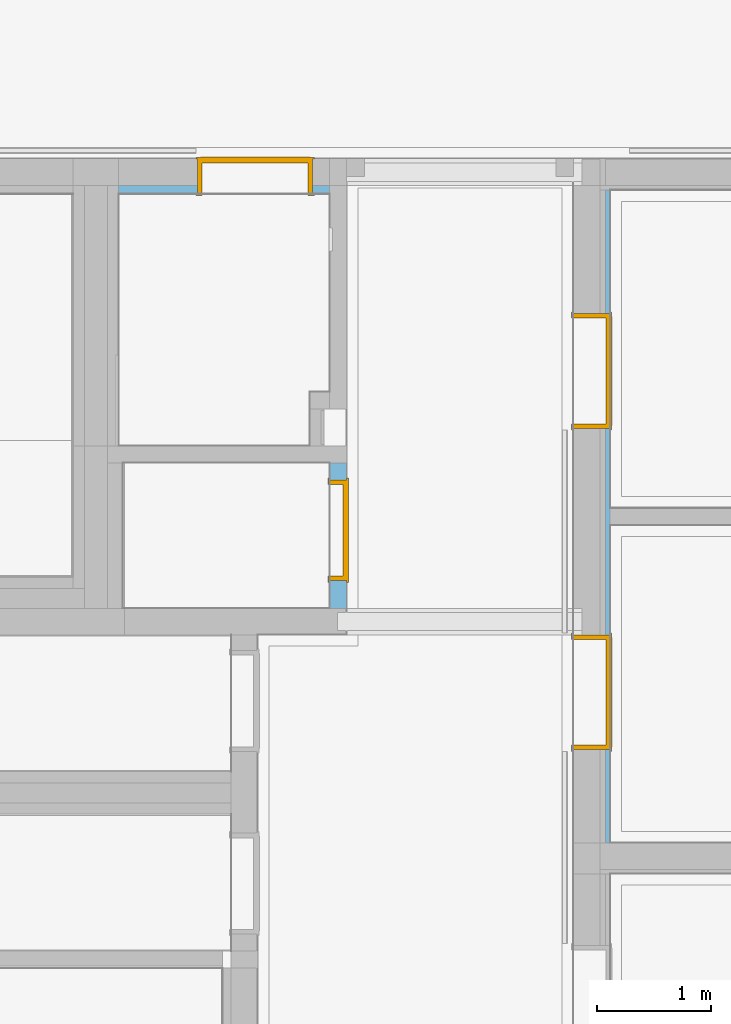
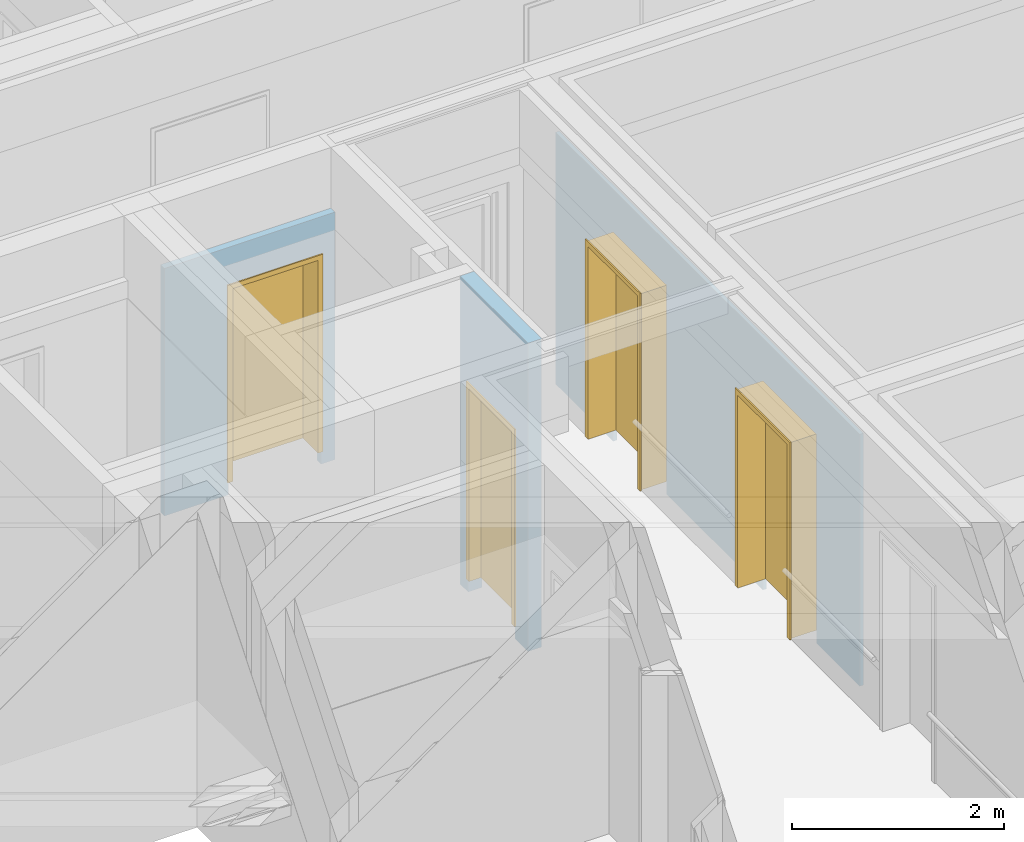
# One storey, part 72 of 222: 4 doors, 4 openings, plus 3 elements that do not belong to this part.
"""IFC4 building model written with IfcOpenShell, lengths in metres."""

from ifc_helpers import new_model, entity, si_unit, converted_unit, derived_unit, frame, frame_2d, origin, origin_with_axes, place, context, subcontext, project, spatial, polyline, rectangle, outline, extrude, faceted_brep, source, transform, mapped, material, type_object, element, fill, save


model = new_model("IFC4")

# Units and contexts
model_context = context("Model", 3, precision=1e-05, world=origin())
body_context = subcontext(model_context, "Body", "Model", "MODEL_VIEW")
ifc_project = project(units=[si_unit("LENGTHUNIT", "METRE"), si_unit("AREAUNIT", "SQUARE_METRE"), si_unit("VOLUMEUNIT", "CUBIC_METRE"), si_unit("MASSUNIT", "GRAM", prefix="KILO"), converted_unit("PLANEANGLEUNIT", "DEGREE", entity("IfcPlaneAngleMeasure", 0.0174532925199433), si_unit("PLANEANGLEUNIT", "RADIAN"), dimensions=[0, 0, 0, 0, 0, 0, 0]), derived_unit("THERMALTRANSMITTANCEUNIT", [(si_unit("POWERUNIT", "WATT"), 1), (si_unit("THERMODYNAMICTEMPERATUREUNIT", "KELVIN"), -1), (si_unit("LENGTHUNIT", "METRE"), -2)]), derived_unit("VOLUMETRICFLOWRATEUNIT", [(si_unit("LENGTHUNIT", "METRE"), 3), (converted_unit("TIMEUNIT", "hour", entity("IfcTimeMeasure", 3600.0), si_unit("TIMEUNIT", "SECOND"), dimensions=[0, 0, 1, 0, 0, 0, 0]), -1), (si_unit("LENGTHUNIT", "METRE"), -1)])], contexts=[model_context])

# Site, building, storey
site_placement = place(None, origin())
site = spatial("IfcSite", under=ifc_project, at=site_placement, Name="Psychiatrie Neubau Wunstorf", CompositionType="ELEMENT")
building_placement = place(site_placement, origin())
building = spatial("IfcBuilding", under=site, at=building_placement, Name="Neubau H2 Stationsgebäude", CompositionType="ELEMENT")
storey_placement = place(building_placement, frame((0.0, 0.0, 3.6)))
storey = spatial("IfcBuildingStorey", under=building, at=storey_placement, Name="H2 Ebene +1", CompositionType="ELEMENT", Elevation=3.6)

# Wall, opening, door
ifc_material_1 = material(Name="WI-LB")
wall_1_placement = place(storey_placement, frame((7.775, 19.1650101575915, 0.0), z_axis=(0.0, 0.0, 1.0), x_axis=(0.0, -1.0, 0.0)))
wall_1 = element("IfcWall", 1, at=wall_1_placement, inside=storey, material=ifc_material_1, context=body_context, shape_type="SweptSolid", body=[
    extrude(rectangle(XDim=1.27899694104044, YDim=0.15, at=frame_2d((0.639498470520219, 0.075), x_axis=(1.0, 0.0))), origin_with_axes(), (0.0, 0.0, 1.0), 3.55),
])
opening_1_placement = place(wall_1_placement, frame((1.03500010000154, 0.15, 0.0), z_axis=(0.0, -1.0, 0.0), x_axis=(0.0, 0.0, 1.0)))
opening_1 = element("IfcOpeningElement", 2, at=opening_1_placement, cuts=wall_1, Name="Türöffnung", ObjectType="Opening", context=body_context, shape_type="SweptSolid", body=[
    extrude(outline(polyline([(2.41, 0.885000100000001), (2.41, 0.0), (0.0, 0.0), (0.0, 0.885000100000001), (2.41, 0.885000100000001)])), origin_with_axes(), (0.0, 0.0, 1.0), 0.15),
])
ifc_material_2 = material(Name="TI-1F-UZ-ZK")
door_type_1 = type_object("IfcDoorType", Name="SMT", OperationType="SINGLE_SWING_RIGHT", ParameterTakesPrecedence=False, PredefinedType="DOOR")
shared_shape_1 = source(origin_with_axes(), body_context, "Body", "Brep", [
    faceted_brep([(0.950000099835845, 0.0250000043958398, 0.0), (0.950000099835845, 0.124999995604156, 0.0), (0.910000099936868, 0.124999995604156, 0.0), (0.910000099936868, 0.0250000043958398, 0.0), (0.950000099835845, 0.124999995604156, 3.55), (0.950000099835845, 0.0250000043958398, 3.55), (0.910000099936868, 0.0250000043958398, 3.55), (0.910000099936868, 0.124999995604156, 3.55)], [[[0, 1, 2, 3]], [[4, 5, 6, 7]], [[1, 0, 5, 4]], [[2, 1, 4, 7]], [[3, 2, 7, 6]], [[0, 3, 6, 5]]], orient=[[False], [False], [False], [False], [False], [False]]),
    faceted_brep([(-0.024999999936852, 0.0250000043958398, 0.0), (-0.024999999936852, 0.124999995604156, 0.0), (-0.0649999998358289, 0.124999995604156, 0.0), (-0.0649999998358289, 0.0250000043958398, 0.0), (-0.024999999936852, 0.124999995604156, 3.55), (-0.024999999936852, 0.0250000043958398, 3.55), (-0.0649999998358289, 0.0250000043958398, 3.55), (-0.0649999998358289, 0.124999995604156, 3.55)], [[[0, 1, 2, 3]], [[4, 5, 6, 7]], [[1, 0, 5, 4]], [[2, 1, 4, 7]], [[3, 2, 7, 6]], [[0, 3, 6, 5]]], orient=[[False], [False], [False], [False], [False], [False]]),
    faceted_brep([(0.910000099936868, 0.0250000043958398, 2.435), (0.910000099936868, 0.124999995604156, 2.435), (-0.024999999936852, 0.124999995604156, 2.435), (-0.024999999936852, 0.0250000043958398, 2.435), (0.910000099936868, 0.124999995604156, 2.475), (0.910000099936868, 0.0250000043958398, 2.475), (-0.024999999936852, 0.0250000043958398, 2.475), (-0.024999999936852, 0.124999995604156, 2.475)], [[[0, 1, 2, 3]], [[4, 5, 6, 7]], [[1, 0, 5, 4]], [[2, 1, 4, 7]], [[3, 2, 7, 6]], [[0, 3, 6, 5]]], orient=[[False], [False], [False], [False], [False], [False]]),
])
shared_shape_2 = source(origin_with_axes(), body_context, "Body", "Brep", [
    faceted_brep([(0.0, -0.0150000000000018, 2.41), (0.0400000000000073, -0.0150000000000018, 2.41), (0.0400000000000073, -0.0150000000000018, 0.15), (0.0, -0.0150000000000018, 0.15), (0.0, 0.164999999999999, 0.15), (0.0400000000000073, 0.164999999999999, 0.15), (0.0400000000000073, 0.164999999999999, 2.41), (0.0, 0.164999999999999, 2.41)], [[[0, 1, 2, 3]], [[4, 5, 6, 7]], [[3, 4, 7, 0]], [[2, 5, 4, 3]], [[1, 6, 5, 2]], [[0, 7, 6, 1]]], orient=[[False], [False], [False], [False], [False], [False]]),
    faceted_brep([(0.0, -0.0150000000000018, 2.425), (0.0, -0.0150000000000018, 0.15), (-0.0149999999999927, -0.0150000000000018, 0.15), (-0.0149999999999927, -0.0150000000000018, 2.425), (0.0, 0.0, 0.15), (0.0, 0.0, 2.425), (-0.0149999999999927, 0.0, 2.425), (-0.0149999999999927, 0.0, 0.15)], [[[0, 1, 2, 3]], [[4, 5, 6, 7]], [[1, 0, 5, 4]], [[2, 1, 4, 7]], [[3, 2, 7, 6]], [[0, 3, 6, 5]]], orient=[[False], [False], [False], [False], [False], [False]]),
    faceted_brep([(0.0, 0.149999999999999, 2.425), (0.0, 0.149999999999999, 0.15), (-0.0149999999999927, 0.149999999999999, 0.15), (-0.0149999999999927, 0.149999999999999, 2.425), (0.0, 0.164999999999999, 0.15), (0.0, 0.164999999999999, 2.425), (-0.0149999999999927, 0.164999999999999, 2.425), (-0.0149999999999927, 0.164999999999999, 0.15)], [[[0, 1, 2, 3]], [[4, 5, 6, 7]], [[1, 0, 5, 4]], [[2, 1, 4, 7]], [[3, 2, 7, 6]], [[0, 3, 6, 5]]], orient=[[False], [False], [False], [False], [False], [False]]),
    faceted_brep([(0.845000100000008, -0.0150000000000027, 2.41), (0.885000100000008, -0.0150000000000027, 2.41), (0.885000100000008, -0.0150000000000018, 0.15), (0.845000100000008, -0.0150000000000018, 0.15), (0.845000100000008, 0.164999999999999, 0.15), (0.885000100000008, 0.164999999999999, 0.15), (0.885000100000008, 0.164999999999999, 2.41), (0.845000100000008, 0.164999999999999, 2.41)], [[[0, 1, 2, 3]], [[4, 5, 6, 7]], [[3, 4, 7, 0]], [[2, 5, 4, 3]], [[1, 6, 5, 2]], [[0, 7, 6, 1]]], orient=[[False], [False], [False], [False], [False], [False]]),
    faceted_brep([(0.885000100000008, -0.0150000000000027, 2.425), (0.900000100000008, -0.0150000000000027, 2.425), (0.900000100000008, -0.0150000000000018, 0.15), (0.885000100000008, -0.0150000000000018, 0.15), (0.885000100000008, 0.0, 0.15), (0.900000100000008, 0.0, 0.15), (0.900000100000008, 0.0, 2.425), (0.885000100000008, 0.0, 2.425)], [[[0, 1, 2, 3]], [[4, 5, 6, 7]], [[3, 4, 7, 0]], [[2, 5, 4, 3]], [[1, 6, 5, 2]], [[0, 7, 6, 1]]], orient=[[False], [False], [False], [False], [False], [False]]),
    faceted_brep([(0.885000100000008, 0.149999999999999, 2.425), (0.900000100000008, 0.149999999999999, 2.425), (0.900000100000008, 0.149999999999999, 0.15), (0.885000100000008, 0.149999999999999, 0.15), (0.885000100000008, 0.164999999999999, 0.15), (0.900000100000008, 0.164999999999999, 0.15), (0.900000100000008, 0.164999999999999, 2.425), (0.885000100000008, 0.164999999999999, 2.425)], [[[0, 1, 2, 3]], [[4, 5, 6, 7]], [[3, 4, 7, 0]], [[2, 5, 4, 3]], [[1, 6, 5, 2]], [[0, 7, 6, 1]]], orient=[[False], [False], [False], [False], [False], [False]]),
    faceted_brep([(0.0400000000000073, -0.0150000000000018, 2.41), (0.845000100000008, -0.0150000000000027, 2.41), (0.845000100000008, -0.0150000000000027, 2.37), (0.0400000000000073, -0.0150000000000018, 2.37), (0.0400000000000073, 0.164999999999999, 2.37), (0.845000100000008, 0.164999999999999, 2.37), (0.845000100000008, 0.164999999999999, 2.41), (0.0400000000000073, 0.164999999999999, 2.41)], [[[0, 1, 2, 3]], [[4, 5, 6, 7]], [[3, 4, 7, 0]], [[2, 5, 4, 3]], [[1, 6, 5, 2]], [[0, 7, 6, 1]]], orient=[[False], [False], [False], [False], [False], [False]]),
    faceted_brep([(0.0, -0.0150000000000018, 2.425), (0.885000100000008, -0.0150000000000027, 2.425), (0.885000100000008, -0.0150000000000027, 2.41), (0.0, -0.0150000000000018, 2.41), (0.0, 0.0, 2.41), (0.885000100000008, 0.0, 2.41), (0.885000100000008, 0.0, 2.425), (0.0, 0.0, 2.425)], [[[0, 1, 2, 3]], [[4, 5, 6, 7]], [[3, 4, 7, 0]], [[2, 5, 4, 3]], [[1, 6, 5, 2]], [[0, 7, 6, 1]]], orient=[[False], [False], [False], [False], [False], [False]]),
    faceted_brep([(0.0, 0.149999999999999, 2.425), (0.885000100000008, 0.149999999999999, 2.425), (0.885000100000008, 0.149999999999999, 2.41), (0.0, 0.149999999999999, 2.41), (0.0, 0.164999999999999, 2.41), (0.885000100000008, 0.164999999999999, 2.41), (0.885000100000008, 0.164999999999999, 2.425), (0.0, 0.164999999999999, 2.425)], [[[0, 1, 2, 3]], [[4, 5, 6, 7]], [[3, 4, 7, 0]], [[2, 5, 4, 3]], [[1, 6, 5, 2]], [[0, 7, 6, 1]]], orient=[[False], [False], [False], [False], [False], [False]]),
    faceted_brep([(0.0250000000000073, 0.115999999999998, 2.385), (0.860000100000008, 0.115999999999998, 2.385), (0.860000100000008, 0.115999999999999, 0.15), (0.0250000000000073, 0.115999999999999, 0.15), (0.0250000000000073, 0.165999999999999, 0.15), (0.860000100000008, 0.165999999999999, 0.15), (0.860000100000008, 0.165999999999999, 2.385), (0.0250000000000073, 0.165999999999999, 2.385)], [[[0, 1, 2, 3]], [[4, 5, 6, 7]], [[3, 4, 7, 0]], [[2, 5, 4, 3]], [[1, 6, 5, 2]], [[0, 7, 6, 1]]], orient=[[False], [False], [False], [False], [False], [False]]),
])
door_1_placement = place(opening_1_placement, frame((0.0, 0.885000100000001, 0.15), z_axis=(1.0, 0.0, 0.0), x_axis=(0.0, -1.0, 0.0)))
door_1 = element("IfcDoor", 3, at=door_1_placement, inside=storey, type_object=door_type_1, material=ifc_material_2, Name="SMT", OverallHeight=2.41, OverallWidth=0.885, context=body_context, shape_type="MappedRepresentation", body=[
    mapped(shared_shape_1, transform((0.0, 0.0, 0.0), x_axis=(1.0, 0.0, 0.0), y_axis=(0.0, 1.0, 0.0), z_axis=(0.0, 0.0, 1.0), scale=1.0)),
    mapped(shared_shape_2, transform((0.0, 0.0, 0.0), x_axis=(1.0, 0.0, 0.0), y_axis=(0.0, 1.0, 0.0), z_axis=(0.0, 0.0, 1.0), scale=1.0)),
])
fill(opening_1, door_1)

# Wall, openings, doors
ifc_material_3 = material(Name="WI-LB")
wall_2_placement = place(storey_placement, frame((10.2390000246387, 15.8255, 0.0), z_axis=(0.0, 0.0, 1.0), x_axis=(0.0, 1.0, 0.0)))
wall_2 = element("IfcWall", 4, at=wall_2_placement, inside=storey, material=ifc_material_3, context=body_context, shape_type="SweptSolid", body=[
    extrude(rectangle(XDim=5.73849999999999, YDim=0.0395, at=frame_2d((2.86924999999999, 0.01975), x_axis=(1.0, 0.0))), origin_with_axes(), (0.0, 0.0, 1.0), 2.9),
])
opening_2_placement = place(wall_2_placement, frame((1.8285132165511, 0.0395, 0.0), z_axis=(0.0, -1.0, 0.0), x_axis=(0.0, 0.0, 1.0)))
opening_2 = element("IfcOpeningElement", 5, at=opening_2_placement, cuts=wall_2, Name="Türöffnung", ObjectType="Opening", context=body_context, shape_type="SweptSolid", body=[
    extrude(outline(polyline([(2.41, 1.01), (2.41, 0.0), (0.0, 0.0), (0.0, 1.01), (2.41, 1.01)])), origin_with_axes(), (0.0, 0.0, 1.0), 0.0395),
])
opening_3_placement = place(wall_2_placement, frame((4.65249999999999, 0.0395, 0.0), z_axis=(0.0, -1.0, 0.0), x_axis=(0.0, 0.0, 1.0)))
opening_3 = element("IfcOpeningElement", 6, at=opening_3_placement, cuts=wall_2, Name="Türöffnung", ObjectType="Opening", context=body_context, shape_type="SweptSolid", body=[
    extrude(outline(polyline([(2.41, 1.01), (2.41, 0.0), (0.0, 0.0), (0.0, 1.01), (2.41, 1.01)])), origin_with_axes(), (0.0, 0.0, 1.0), 0.0395),
])
ifc_material_4 = material(Name="TI-1F-UZ-ZK")
door_type_2 = type_object("IfcDoorType", Name="SMT", OperationType="SINGLE_SWING_RIGHT", ParameterTakesPrecedence=False, PredefinedType="DOOR")
shared_shape_3 = source(origin_with_axes(), body_context, "Body", "Brep", [
    faceted_brep([(0.0, -0.0150000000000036, 2.41), (0.0400000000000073, -0.0150000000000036, 2.41), (0.0400000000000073, -0.0150000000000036, 0.15), (0.0, -0.0150000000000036, 0.15), (0.0, 0.336499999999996, 0.15), (0.0400000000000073, 0.336499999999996, 0.15), (0.0400000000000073, 0.336499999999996, 2.41), (0.0, 0.336499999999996, 2.41)], [[[0, 1, 2, 3]], [[4, 5, 6, 7]], [[3, 4, 7, 0]], [[2, 5, 4, 3]], [[1, 6, 5, 2]], [[0, 7, 6, 1]]], orient=[[False], [False], [False], [False], [False], [False]]),
    faceted_brep([(0.0, -0.0150000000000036, 2.425), (0.0, -0.0150000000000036, 0.15), (-0.0149999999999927, -0.0150000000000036, 0.15), (-0.0149999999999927, -0.0150000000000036, 2.425), (0.0, 0.0, 0.15), (0.0, 0.0, 2.425), (-0.0149999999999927, 0.0, 2.425), (-0.0149999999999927, 0.0, 0.15)], [[[0, 1, 2, 3]], [[4, 5, 6, 7]], [[1, 0, 5, 4]], [[2, 1, 4, 7]], [[3, 2, 7, 6]], [[0, 3, 6, 5]]], orient=[[False], [False], [False], [False], [False], [False]]),
    faceted_brep([(0.0, 0.321499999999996, 2.425), (0.0, 0.321499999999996, 0.15), (-0.0149999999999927, 0.321499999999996, 0.15), (-0.0149999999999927, 0.321499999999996, 2.425), (0.0, 0.336499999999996, 0.15), (0.0, 0.336499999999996, 2.425), (-0.0149999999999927, 0.336499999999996, 2.425), (-0.0149999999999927, 0.336499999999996, 0.15)], [[[0, 1, 2, 3]], [[4, 5, 6, 7]], [[1, 0, 5, 4]], [[2, 1, 4, 7]], [[3, 2, 7, 6]], [[0, 3, 6, 5]]], orient=[[False], [False], [False], [False], [False], [False]]),
    faceted_brep([(0.970000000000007, -0.0150000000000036, 2.41), (1.01000000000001, -0.0150000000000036, 2.41), (1.01000000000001, -0.0150000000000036, 0.15), (0.970000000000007, -0.0150000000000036, 0.15), (0.970000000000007, 0.336499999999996, 0.15), (1.01000000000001, 0.336499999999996, 0.15), (1.01000000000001, 0.336499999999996, 2.41), (0.970000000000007, 0.336499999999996, 2.41)], [[[0, 1, 2, 3]], [[4, 5, 6, 7]], [[3, 4, 7, 0]], [[2, 5, 4, 3]], [[1, 6, 5, 2]], [[0, 7, 6, 1]]], orient=[[False], [False], [False], [False], [False], [False]]),
    faceted_brep([(1.01000000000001, -0.0150000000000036, 2.425), (1.02500000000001, -0.0150000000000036, 2.425), (1.02500000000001, -0.0150000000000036, 0.15), (1.01000000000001, -0.0150000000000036, 0.15), (1.01000000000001, 0.0, 0.15), (1.02500000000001, 0.0, 0.15), (1.02500000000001, 0.0, 2.425), (1.01000000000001, 0.0, 2.425)], [[[0, 1, 2, 3]], [[4, 5, 6, 7]], [[3, 4, 7, 0]], [[2, 5, 4, 3]], [[1, 6, 5, 2]], [[0, 7, 6, 1]]], orient=[[False], [False], [False], [False], [False], [False]]),
    faceted_brep([(1.01000000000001, 0.321499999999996, 2.425), (1.02500000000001, 0.321499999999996, 2.425), (1.02500000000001, 0.321499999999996, 0.15), (1.01000000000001, 0.321499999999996, 0.15), (1.01000000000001, 0.336499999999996, 0.15), (1.02500000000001, 0.336499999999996, 0.15), (1.02500000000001, 0.336499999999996, 2.425), (1.01000000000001, 0.336499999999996, 2.425)], [[[0, 1, 2, 3]], [[4, 5, 6, 7]], [[3, 4, 7, 0]], [[2, 5, 4, 3]], [[1, 6, 5, 2]], [[0, 7, 6, 1]]], orient=[[False], [False], [False], [False], [False], [False]]),
    faceted_brep([(0.0400000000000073, -0.0150000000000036, 2.41), (0.970000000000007, -0.0150000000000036, 2.41), (0.970000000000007, -0.0150000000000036, 2.37), (0.0400000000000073, -0.0150000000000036, 2.37), (0.0400000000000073, 0.336499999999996, 2.37), (0.970000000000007, 0.336499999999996, 2.37), (0.970000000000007, 0.336499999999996, 2.41), (0.0400000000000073, 0.336499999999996, 2.41)], [[[0, 1, 2, 3]], [[4, 5, 6, 7]], [[3, 4, 7, 0]], [[2, 5, 4, 3]], [[1, 6, 5, 2]], [[0, 7, 6, 1]]], orient=[[False], [False], [False], [False], [False], [False]]),
    faceted_brep([(0.0, -0.0150000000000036, 2.425), (1.01000000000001, -0.0150000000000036, 2.425), (1.01000000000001, -0.0150000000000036, 2.41), (0.0, -0.0150000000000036, 2.41), (0.0, 0.0, 2.41), (1.01000000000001, 0.0, 2.41), (1.01000000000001, 0.0, 2.425), (0.0, 0.0, 2.425)], [[[0, 1, 2, 3]], [[4, 5, 6, 7]], [[3, 4, 7, 0]], [[2, 5, 4, 3]], [[1, 6, 5, 2]], [[0, 7, 6, 1]]], orient=[[False], [False], [False], [False], [False], [False]]),
    faceted_brep([(0.0, 0.321499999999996, 2.425), (1.01000000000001, 0.321499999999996, 2.425), (1.01000000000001, 0.321499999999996, 2.41), (0.0, 0.321499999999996, 2.41), (0.0, 0.336499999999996, 2.41), (1.01000000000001, 0.336499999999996, 2.41), (1.01000000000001, 0.336499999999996, 2.425), (0.0, 0.336499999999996, 2.425)], [[[0, 1, 2, 3]], [[4, 5, 6, 7]], [[3, 4, 7, 0]], [[2, 5, 4, 3]], [[1, 6, 5, 2]], [[0, 7, 6, 1]]], orient=[[False], [False], [False], [False], [False], [False]]),
    faceted_brep([(0.0250000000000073, 0.287499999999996, 2.385), (0.985000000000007, 0.287499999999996, 2.385), (0.985000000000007, 0.287499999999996, 0.15), (0.0250000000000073, 0.287499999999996, 0.15), (0.0250000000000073, 0.337499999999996, 0.15), (0.985000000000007, 0.337499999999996, 0.15), (0.985000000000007, 0.337499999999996, 2.385), (0.0250000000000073, 0.337499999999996, 2.385)], [[[0, 1, 2, 3]], [[4, 5, 6, 7]], [[3, 4, 7, 0]], [[2, 5, 4, 3]], [[1, 6, 5, 2]], [[0, 7, 6, 1]]], orient=[[False], [False], [False], [False], [False], [False]]),
])
door_2_placement = place(opening_2_placement, frame((0.0, 0.0, -0.282), z_axis=(1.0, 0.0, 0.0), x_axis=(0.0, 1.0, 0.0)))
door_2 = element("IfcDoor", 7, at=door_2_placement, inside=storey, type_object=door_type_2, material=ifc_material_4, Name="SMT", OverallHeight=2.41, OverallWidth=1.01, context=body_context, shape_type="MappedRepresentation", body=[
    mapped(shared_shape_3, transform((0.0, 0.0, 0.0), x_axis=(1.0, 0.0, 0.0), y_axis=(0.0, 1.0, 0.0), z_axis=(0.0, 0.0, 1.0), scale=1.0)),
])
fill(opening_2, door_2)
ifc_material_5 = material(Name="TI-1F-UZ-ZK")
door_type_3 = type_object("IfcDoorType", Name="SMT", OperationType="SINGLE_SWING_RIGHT", ParameterTakesPrecedence=False, PredefinedType="DOOR")
shared_shape_4 = source(origin_with_axes(), body_context, "Body", "Brep", [
    faceted_brep([(1.01000000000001, -0.0150000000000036, 2.41), (1.01000000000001, -0.0150000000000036, 0.15), (0.970000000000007, -0.0150000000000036, 0.15), (0.970000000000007, -0.0150000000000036, 2.41), (1.01000000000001, 0.336499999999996, 0.15), (1.01000000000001, 0.336499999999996, 2.41), (0.970000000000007, 0.336499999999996, 2.41), (0.970000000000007, 0.336499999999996, 0.15)], [[[0, 1, 2, 3]], [[4, 5, 6, 7]], [[1, 0, 5, 4]], [[2, 1, 4, 7]], [[3, 2, 7, 6]], [[0, 3, 6, 5]]], orient=[[False], [False], [False], [False], [False], [False]]),
    faceted_brep([(1.01000000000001, -0.0150000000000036, 2.425), (1.02500000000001, -0.0150000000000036, 2.425), (1.02500000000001, -0.0150000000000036, 0.15), (1.01000000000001, -0.0150000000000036, 0.15), (1.01000000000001, 0.0, 0.15), (1.02500000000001, 0.0, 0.15), (1.02500000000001, 0.0, 2.425), (1.01000000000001, 0.0, 2.425)], [[[0, 1, 2, 3]], [[4, 5, 6, 7]], [[3, 4, 7, 0]], [[2, 5, 4, 3]], [[1, 6, 5, 2]], [[0, 7, 6, 1]]], orient=[[False], [False], [False], [False], [False], [False]]),
    faceted_brep([(1.01000000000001, 0.321499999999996, 2.425), (1.02500000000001, 0.321499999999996, 2.425), (1.02500000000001, 0.321499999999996, 0.15), (1.01000000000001, 0.321499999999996, 0.15), (1.01000000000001, 0.336499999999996, 0.15), (1.02500000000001, 0.336499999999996, 0.15), (1.02500000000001, 0.336499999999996, 2.425), (1.01000000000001, 0.336499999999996, 2.425)], [[[0, 1, 2, 3]], [[4, 5, 6, 7]], [[3, 4, 7, 0]], [[2, 5, 4, 3]], [[1, 6, 5, 2]], [[0, 7, 6, 1]]], orient=[[False], [False], [False], [False], [False], [False]]),
    faceted_brep([(0.0400000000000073, -0.0150000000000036, 2.41), (0.0400000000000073, -0.0150000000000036, 0.15), (0.0, -0.0150000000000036, 0.15), (0.0, -0.0150000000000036, 2.41), (0.0400000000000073, 0.336499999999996, 0.15), (0.0400000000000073, 0.336499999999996, 2.41), (0.0, 0.336499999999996, 2.41), (0.0, 0.336499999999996, 0.15)], [[[0, 1, 2, 3]], [[4, 5, 6, 7]], [[1, 0, 5, 4]], [[2, 1, 4, 7]], [[3, 2, 7, 6]], [[0, 3, 6, 5]]], orient=[[False], [False], [False], [False], [False], [False]]),
    faceted_brep([(0.0, -0.0150000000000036, 2.425), (0.0, -0.0150000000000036, 0.15), (-0.0149999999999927, -0.0150000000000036, 0.15), (-0.0149999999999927, -0.0150000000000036, 2.425), (0.0, 0.0, 0.15), (0.0, 0.0, 2.425), (-0.0149999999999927, 0.0, 2.425), (-0.0149999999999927, 0.0, 0.15)], [[[0, 1, 2, 3]], [[4, 5, 6, 7]], [[1, 0, 5, 4]], [[2, 1, 4, 7]], [[3, 2, 7, 6]], [[0, 3, 6, 5]]], orient=[[False], [False], [False], [False], [False], [False]]),
    faceted_brep([(0.0, 0.321499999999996, 2.425), (0.0, 0.321499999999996, 0.15), (-0.0149999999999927, 0.321499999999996, 0.15), (-0.0149999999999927, 0.321499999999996, 2.425), (0.0, 0.336499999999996, 0.15), (0.0, 0.336499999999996, 2.425), (-0.0149999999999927, 0.336499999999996, 2.425), (-0.0149999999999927, 0.336499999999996, 0.15)], [[[0, 1, 2, 3]], [[4, 5, 6, 7]], [[1, 0, 5, 4]], [[2, 1, 4, 7]], [[3, 2, 7, 6]], [[0, 3, 6, 5]]], orient=[[False], [False], [False], [False], [False], [False]]),
    faceted_brep([(0.970000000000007, -0.0150000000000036, 2.41), (0.970000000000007, -0.0150000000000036, 2.37), (0.0400000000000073, -0.0150000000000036, 2.37), (0.0400000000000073, -0.0150000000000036, 2.41), (0.970000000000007, 0.336499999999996, 2.37), (0.970000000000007, 0.336499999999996, 2.41), (0.0400000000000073, 0.336499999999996, 2.41), (0.0400000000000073, 0.336499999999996, 2.37)], [[[0, 1, 2, 3]], [[4, 5, 6, 7]], [[1, 0, 5, 4]], [[2, 1, 4, 7]], [[3, 2, 7, 6]], [[0, 3, 6, 5]]], orient=[[False], [False], [False], [False], [False], [False]]),
    faceted_brep([(1.01000000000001, -0.0150000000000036, 2.425), (1.01000000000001, -0.0150000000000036, 2.41), (0.0, -0.0150000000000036, 2.41), (0.0, -0.0150000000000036, 2.425), (1.01000000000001, 0.0, 2.41), (1.01000000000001, 0.0, 2.425), (0.0, 0.0, 2.425), (0.0, 0.0, 2.41)], [[[0, 1, 2, 3]], [[4, 5, 6, 7]], [[1, 0, 5, 4]], [[2, 1, 4, 7]], [[3, 2, 7, 6]], [[0, 3, 6, 5]]], orient=[[False], [False], [False], [False], [False], [False]]),
    faceted_brep([(1.01000000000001, 0.321499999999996, 2.425), (1.01000000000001, 0.321499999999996, 2.41), (0.0, 0.321499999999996, 2.41), (0.0, 0.321499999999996, 2.425), (1.01000000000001, 0.336499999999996, 2.41), (1.01000000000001, 0.336499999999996, 2.425), (0.0, 0.336499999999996, 2.425), (0.0, 0.336499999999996, 2.41)], [[[0, 1, 2, 3]], [[4, 5, 6, 7]], [[1, 0, 5, 4]], [[2, 1, 4, 7]], [[3, 2, 7, 6]], [[0, 3, 6, 5]]], orient=[[False], [False], [False], [False], [False], [False]]),
    faceted_brep([(0.985000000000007, 0.287499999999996, 2.385), (0.985000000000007, 0.287499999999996, 0.15), (0.0250000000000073, 0.287499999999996, 0.15), (0.0250000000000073, 0.287499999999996, 2.385), (0.985000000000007, 0.337499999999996, 0.15), (0.985000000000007, 0.337499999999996, 2.385), (0.0250000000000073, 0.337499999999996, 2.385), (0.0250000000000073, 0.337499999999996, 0.15)], [[[0, 1, 2, 3]], [[4, 5, 6, 7]], [[1, 0, 5, 4]], [[2, 1, 4, 7]], [[3, 2, 7, 6]], [[0, 3, 6, 5]]], orient=[[False], [False], [False], [False], [False], [False]]),
])
door_3_placement = place(opening_3_placement, frame((0.0, 0.0, -0.282), z_axis=(1.0, 0.0, 0.0), x_axis=(0.0, 1.0, 0.0)))
door_3 = element("IfcDoor", 8, at=door_3_placement, inside=storey, type_object=door_type_3, material=ifc_material_5, Name="SMT", OverallHeight=2.41, OverallWidth=1.01, context=body_context, shape_type="MappedRepresentation", body=[
    mapped(shared_shape_4, transform((0.0, 0.0, 0.0), x_axis=(1.0, 0.0, 0.0), y_axis=(0.0, 1.0, 0.0), z_axis=(0.0, 0.0, 1.0), scale=1.0)),
])
fill(opening_3, door_3)

# Wall, opening, door
ifc_material_6 = material(Name="WI-LB")
wall_3_placement = place(storey_placement, frame((5.92039963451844, 21.529, 0.0)))
wall_3 = element("IfcWall", 9, at=wall_3_placement, inside=storey, material=ifc_material_6, context=body_context, shape_type="SweptSolid", body=[
    extrude(rectangle(XDim=1.85459387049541, YDim=0.075, at=frame_2d((0.927296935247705, 0.0375), x_axis=(1.0, 0.0))), origin_with_axes(), (0.0, 0.0, 1.0), 2.85),
])
opening_4_placement = place(wall_3_placement, frame((0.694593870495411, 0.0, 0.0), z_axis=(0.0, 1.0, 0.0), x_axis=(0.0, 0.0, 1.0)))
opening_4 = element("IfcOpeningElement", 10, at=opening_4_placement, cuts=wall_3, Name="Türöffnung", ObjectType="Opening", context=body_context, shape_type="SweptSolid", body=[
    extrude(outline(polyline([(2.41, 1.01), (2.41, 0.0), (0.0, 0.0), (0.0, 1.01), (2.41, 1.01)])), origin_with_axes(), (0.0, 0.0, 1.0), 0.075),
])
ifc_material_7 = material(Name="TI-1F-UZ-ZK")
door_type_4 = type_object("IfcDoorType", Name="SMT", OperationType="SINGLE_SWING_RIGHT", ParameterTakesPrecedence=False, PredefinedType="DOOR")
shared_shape_5 = source(origin_with_axes(), body_context, "Body", "Brep", [
    faceted_brep([(1.01, -0.015, 2.41), (1.01, -0.015, 0.15), (0.97, -0.015, 0.15), (0.97, -0.015, 2.41), (1.01, 0.321999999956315, 0.15), (1.01, 0.321999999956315, 2.41), (0.97, 0.321999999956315, 2.41), (0.97, 0.321999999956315, 0.15)], [[[0, 1, 2, 3]], [[4, 5, 6, 7]], [[1, 0, 5, 4]], [[2, 1, 4, 7]], [[3, 2, 7, 6]], [[0, 3, 6, 5]]], orient=[[False], [False], [False], [False], [False], [False]]),
    faceted_brep([(1.01, -0.015, 2.425), (1.025, -0.015, 2.425), (1.025, -0.015, 0.15), (1.01, -0.015, 0.15), (1.01, 0.0, 0.15), (1.025, 0.0, 0.15), (1.025, 0.0, 2.425), (1.01, 0.0, 2.425)], [[[0, 1, 2, 3]], [[4, 5, 6, 7]], [[3, 4, 7, 0]], [[2, 5, 4, 3]], [[1, 6, 5, 2]], [[0, 7, 6, 1]]], orient=[[False], [False], [False], [False], [False], [False]]),
    faceted_brep([(1.01, 0.306999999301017, 2.425), (1.025, 0.306999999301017, 2.425), (1.025, 0.306999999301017, 0.15), (1.01, 0.306999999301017, 0.15), (1.01, 0.321999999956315, 0.15), (1.025, 0.321999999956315, 0.15), (1.025, 0.321999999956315, 2.425), (1.01, 0.321999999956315, 2.425)], [[[0, 1, 2, 3]], [[4, 5, 6, 7]], [[3, 4, 7, 0]], [[2, 5, 4, 3]], [[1, 6, 5, 2]], [[0, 7, 6, 1]]], orient=[[False], [False], [False], [False], [False], [False]]),
    faceted_brep([(0.04, -0.015, 2.41), (0.04, -0.015, 0.15), (0.0, -0.015, 0.15), (0.0, -0.015, 2.41), (0.04, 0.321999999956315, 0.15), (0.04, 0.321999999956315, 2.41), (0.0, 0.321999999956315, 2.41), (0.0, 0.321999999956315, 0.15)], [[[0, 1, 2, 3]], [[4, 5, 6, 7]], [[1, 0, 5, 4]], [[2, 1, 4, 7]], [[3, 2, 7, 6]], [[0, 3, 6, 5]]], orient=[[False], [False], [False], [False], [False], [False]]),
    faceted_brep([(0.0, -0.015, 2.425), (0.0, -0.015, 0.15), (-0.015, -0.015, 0.15), (-0.015, -0.015, 2.425), (0.0, 0.0, 0.15), (0.0, 0.0, 2.425), (-0.015, 0.0, 2.425), (-0.015, 0.0, 0.15)], [[[0, 1, 2, 3]], [[4, 5, 6, 7]], [[1, 0, 5, 4]], [[2, 1, 4, 7]], [[3, 2, 7, 6]], [[0, 3, 6, 5]]], orient=[[False], [False], [False], [False], [False], [False]]),
    faceted_brep([(0.0, 0.306999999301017, 2.425), (0.0, 0.306999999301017, 0.15), (-0.015, 0.306999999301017, 0.15), (-0.015, 0.306999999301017, 2.425), (0.0, 0.321999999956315, 0.15), (0.0, 0.321999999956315, 2.425), (-0.015, 0.321999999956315, 2.425), (-0.015, 0.321999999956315, 0.15)], [[[0, 1, 2, 3]], [[4, 5, 6, 7]], [[1, 0, 5, 4]], [[2, 1, 4, 7]], [[3, 2, 7, 6]], [[0, 3, 6, 5]]], orient=[[False], [False], [False], [False], [False], [False]]),
    faceted_brep([(0.97, -0.015, 2.41), (0.97, -0.015, 2.37), (0.04, -0.015, 2.37), (0.04, -0.015, 2.41), (0.97, 0.321999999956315, 2.37), (0.97, 0.321999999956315, 2.41), (0.04, 0.321999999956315, 2.41), (0.04, 0.321999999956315, 2.37)], [[[0, 1, 2, 3]], [[4, 5, 6, 7]], [[1, 0, 5, 4]], [[2, 1, 4, 7]], [[3, 2, 7, 6]], [[0, 3, 6, 5]]], orient=[[False], [False], [False], [False], [False], [False]]),
    faceted_brep([(1.01, -0.015, 2.425), (1.01, -0.015, 2.41), (0.0, -0.015, 2.41), (0.0, -0.015, 2.425), (1.01, 0.0, 2.41), (1.01, 0.0, 2.425), (0.0, 0.0, 2.425), (0.0, 0.0, 2.41)], [[[0, 1, 2, 3]], [[4, 5, 6, 7]], [[1, 0, 5, 4]], [[2, 1, 4, 7]], [[3, 2, 7, 6]], [[0, 3, 6, 5]]], orient=[[False], [False], [False], [False], [False], [False]]),
    faceted_brep([(1.01, 0.306999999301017, 2.425), (1.01, 0.306999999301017, 2.41), (0.0, 0.306999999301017, 2.41), (0.0, 0.306999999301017, 2.425), (1.01, 0.321999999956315, 2.41), (1.01, 0.321999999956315, 2.425), (0.0, 0.321999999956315, 2.425), (0.0, 0.321999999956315, 2.41)], [[[0, 1, 2, 3]], [[4, 5, 6, 7]], [[1, 0, 5, 4]], [[2, 1, 4, 7]], [[3, 2, 7, 6]], [[0, 3, 6, 5]]], orient=[[False], [False], [False], [False], [False], [False]]),
    faceted_brep([(0.985, 0.272999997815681, 2.385), (0.985, 0.272999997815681, 0.15), (0.025, 0.272999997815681, 0.15), (0.025, 0.272999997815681, 2.385), (0.985, 0.323, 0.15), (0.985, 0.323, 2.385), (0.025, 0.323, 2.385), (0.025, 0.323, 0.15)], [[[0, 1, 2, 3]], [[4, 5, 6, 7]], [[1, 0, 5, 4]], [[2, 1, 4, 7]], [[3, 2, 7, 6]], [[0, 3, 6, 5]]], orient=[[False], [False], [False], [False], [False], [False]]),
])
door_4_placement = place(opening_4_placement, frame((0.0, 0.0, 0.0), z_axis=(1.0, 0.0, 0.0), x_axis=(0.0, 1.0, 0.0)))
door_4 = element("IfcDoor", 11, at=door_4_placement, inside=storey, type_object=door_type_4, material=ifc_material_7, Name="SMT", OverallHeight=2.41, OverallWidth=1.01, context=body_context, shape_type="MappedRepresentation", body=[
    mapped(shared_shape_5, transform((0.0, 0.0, 0.0), x_axis=(1.0, 0.0, 0.0), y_axis=(0.0, 1.0, 0.0), z_axis=(0.0, 0.0, 1.0), scale=1.0)),
])
fill(opening_4, door_4)

save(model, "model.ifc")
